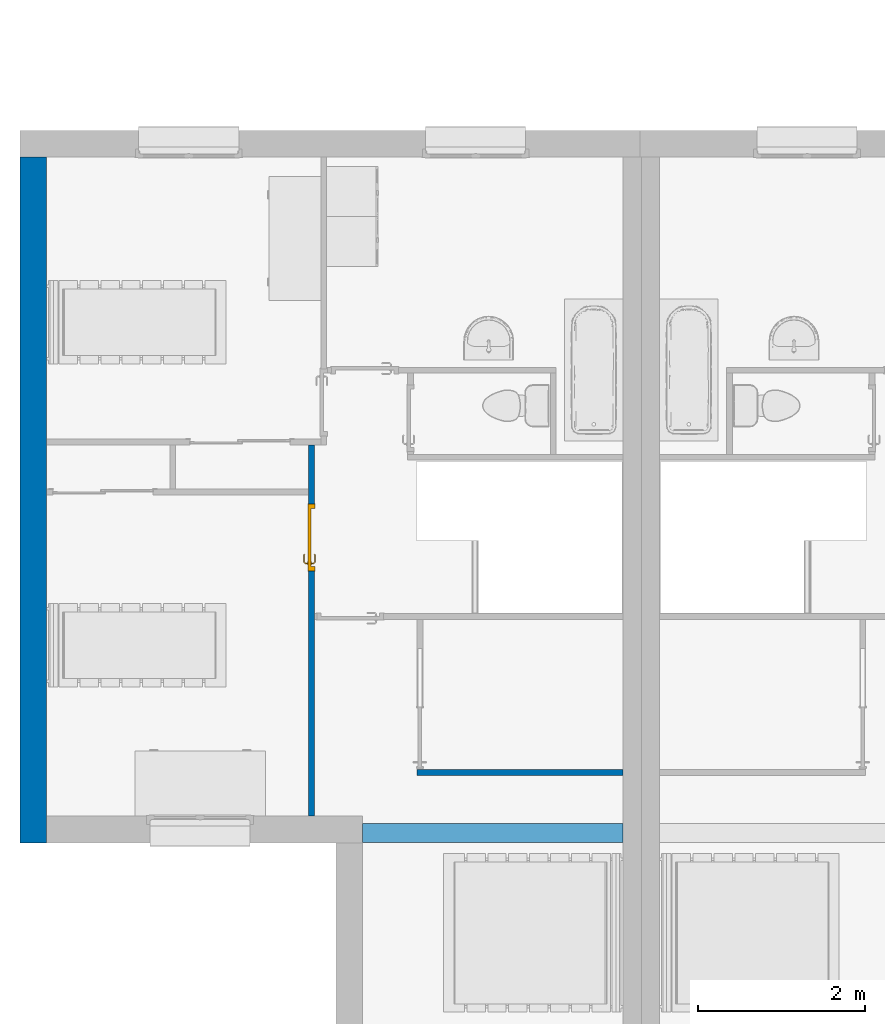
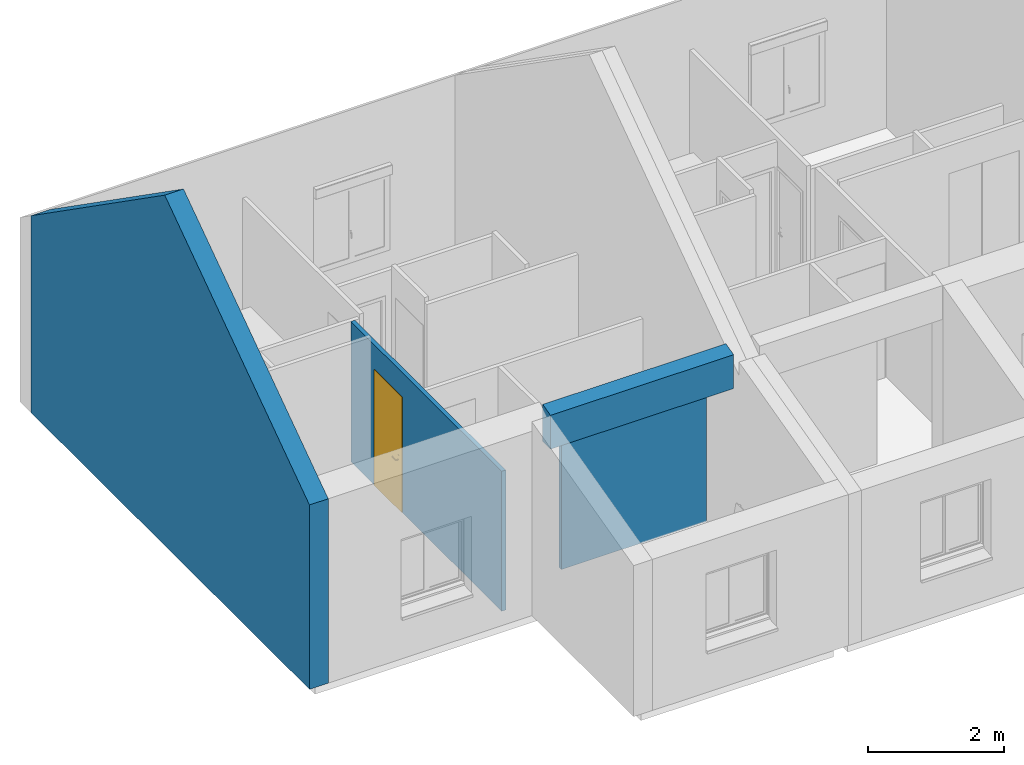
# One storey, part 10 of 50: 4 walls, 1 door, 1 opening.
"""IFC2X3 building model written with IfcOpenShell, lengths in metres."""

from ifc_helpers import new_model, entity, si_unit, converted_unit, derived_unit, direction, frame, frame_2d, origin, place, context, subcontext, project, spatial, polyline, rectangle, extrude, clip, bounded_halfspace, faceted_brep, source, transform, mapped, material, material_list, layer, layer_set, layer_usage, type_object, type_shapes, element, fill, save


model = new_model("IFC2X3")

# Units and contexts
model_context = context("Model", 3, precision=1e-05, world=origin(), true_north=direction((6.12303176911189e-17, 1.0)))
context_of_model = context(None, 3, precision=1e-05, world=origin(), true_north=direction((6.12303176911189e-17, 1.0)))
body_context = subcontext(model_context, "Body", "Model", "MODEL_VIEW")
ifc_project = project(units=[si_unit("LENGTHUNIT", "METRE"), si_unit("AREAUNIT", "SQUARE_METRE"), si_unit("VOLUMEUNIT", "CUBIC_METRE"), converted_unit("PLANEANGLEUNIT", "DEGREE", entity("IfcRatioMeasure", 0.0174532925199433), si_unit("PLANEANGLEUNIT", "RADIAN"), dimensions=[0, 0, 0, 0, 0, 0, 0]), si_unit("MASSUNIT", "GRAM", prefix="KILO"), si_unit("TIMEUNIT", "SECOND"), si_unit("FREQUENCYUNIT", "HERTZ"), si_unit("THERMODYNAMICTEMPERATUREUNIT", "DEGREE_CELSIUS"), derived_unit("THERMALTRANSMITTANCEUNIT", [(si_unit("MASSUNIT", "GRAM", prefix="KILO"), 1), (si_unit("THERMODYNAMICTEMPERATUREUNIT", "KELVIN"), -1), (si_unit("TIMEUNIT", "SECOND"), -3)]), derived_unit("VOLUMETRICFLOWRATEUNIT", [(si_unit("LENGTHUNIT", "METRE"), 3), (si_unit("TIMEUNIT", "SECOND"), -1)]), si_unit("ELECTRICCURRENTUNIT", "AMPERE"), si_unit("ELECTRICVOLTAGEUNIT", "VOLT"), si_unit("POWERUNIT", "WATT"), si_unit("FORCEUNIT", "NEWTON", prefix="KILO"), si_unit("ILLUMINANCEUNIT", "LUX"), si_unit("LUMINOUSFLUXUNIT", "LUMEN"), si_unit("LUMINOUSINTENSITYUNIT", "CANDELA"), si_unit("PRESSUREUNIT", "PASCAL")], contexts=[model_context, context_of_model])

# Site, building, storey
site_placement = place(None, origin())
site = spatial("IfcSite", under=ifc_project, at=site_placement, Name="Surface", CompositionType="ELEMENT")
building_placement = place(site_placement, origin())
building = spatial("IfcBuilding", under=site, at=building_placement, CompositionType="ELEMENT")
storey_placement = place(building_placement, frame((0.0, 0.0, 2.82)))
storey = spatial("IfcBuildingStorey", under=building, at=storey_placement, Name="ETAGE", CompositionType="ELEMENT", Elevation=2.82)

# Wall
ifc_material_1 = material(Name="Enduit blanc cassé2")
ifc_layer_1 = layer(ifc_material_1, 0.02)
ifc_material_2 = material(Name="Parpaing")
ifc_layer_2 = layer(ifc_material_2, 0.2)
ifc_material_3 = material(Name="Isolant")
ifc_layer_3 = layer(ifc_material_3, 0.1)
ifc_layer_set_1 = layer_set([ifc_layer_1, ifc_layer_2, ifc_layer_3], Name="Mur de base:Ext. Parpaing 20 + Isolant 10 enduit blanc cassé")
ifc_layer_usage_1 = layer_usage(ifc_layer_set_1, "AXIS2", "POSITIVE", -0.16)
wall_type_1 = type_object("IfcWallType", Name="Mur de base:Ext. Parpaing 20 + Isolant 10 enduit blanc cassé", PredefinedType="STANDARD", material=ifc_layer_set_1)
wall_1_placement = place(storey_placement, frame((61.5463634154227, 88.1077566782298, 0.0), z_axis=(0.0, 0.0, 1.0), x_axis=(0.0, -1.0, 0.0)))
element("IfcWallStandardCase", 1, at=wall_1_placement, inside=storey, type_object=wall_type_1, material=ifc_layer_usage_1, Name="Mur de base:Ext. Parpaing 20 + Isolant 10 enduit blanc cassé", ObjectType="Mur de base:Ext. Parpaing 20 + Isolant 10 enduit blanc cassé", context=body_context, shape_type="Clipping", body=[
    clip(clip(extrude(rectangle(XDim=8.22, YDim=0.319999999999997, at=frame_2d((4.11, 2.692290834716e-15), x_axis=(-1.0, 0.0))), origin(), (0.0, 0.0, 1.0), 6.30988618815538), bounded_halfspace(frame((0.0, -0.16, 3.5440664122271), z_axis=(-0.573576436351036, 0.0, 0.819152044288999), x_axis=(0.0, -1.0, 0.0)), False, frame((0.0, -0.16, 3.5440664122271)), polyline([(0.0, 0.0), (3.95, 0.0), (3.95, 0.319999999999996), (0.0, 0.319999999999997), (0.0, 0.0)]))), bounded_halfspace(frame((3.95, -0.16, 6.30988618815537), z_axis=(0.573576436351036, 0.0, 0.819152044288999), x_axis=(0.0, 1.0, 0.0)), False, frame((3.95, -0.16, 6.30988618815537)), polyline([(0.0, 0.0), (4.27, 0.0), (4.26999999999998, 0.320000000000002), (3.94999999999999, 0.319999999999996), (0.0, 0.319999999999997), (0.0, 0.0)]))),
])

# Wall, opening, door
ifc_material_4 = material(Name="Peinture - Blanc")
ifc_layer_4 = layer(ifc_material_4, 0.07)
ifc_layer_set_2 = layer_set([ifc_layer_4], Name="Mur de base:Int.  Platre 70 mm en blanc")
ifc_layer_usage_2 = layer_usage(ifc_layer_set_2, "AXIS2", "POSITIVE", -0.035)
wall_type_2 = type_object("IfcWallType", Name="Mur de base:Int.  Platre 70 mm en blanc", PredefinedType="STANDARD", material=ifc_layer_set_2)
wall_2_placement = place(storey_placement, frame((64.8796263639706, 80.2077566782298, 0.0), z_axis=(0.0, 0.0, 1.0), x_axis=(0.0, 1.0, 0.0)))
wall_2 = element("IfcWallStandardCase", 2, at=wall_2_placement, inside=storey, type_object=wall_type_2, material=ifc_layer_usage_2, Name="Mur de base:Int.  Platre 70 mm en blanc", ObjectType="Mur de base:Int.  Platre 70 mm en blanc", context=body_context, shape_type="SweptSolid", body=[
    extrude(rectangle(XDim=4.44999999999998, YDim=0.0700000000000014, at=frame_2d((2.22499999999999, -1.65492619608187e-15), x_axis=(-1.0, 0.0))), origin(), (0.0, 0.0, 1.0), 2.52),
])
opening_placement = place(wall_2_placement, frame((2.94000000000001, -0.0350000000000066, 0.0)))
opening = element("IfcOpeningElement", 3, at=opening_placement, cuts=wall_2, Name="FR_Simple (R):73 x 204 - (70):1", ObjectType="Opening", context=body_context, shape_type="SweptSolid", body=[
    extrude(rectangle(XDim=2.075, YDim=0.799999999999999, at=frame_2d((1.0375, 0.4), x_axis=(1.0, 0.0))), frame((0.0, 0.0, 0.0), z_axis=(0.0, 1.0, 0.0), x_axis=(0.0, 0.0, 1.0)), (0.0, 0.0, 1.0), 0.07),
])
ifc_material_5 = material(Name="Poignée Porte")
ifc_material_6 = material(Name="Dormants Portes")
ifc_material_7 = material(Name="Panneaux Portes")
ifc_material_list_1 = material_list([ifc_material_5, ifc_material_6, ifc_material_7])
ifc_material_list_2 = material_list([ifc_material_5, ifc_material_6, ifc_material_7])
door_style = type_object("IfcDoorStyle", Name="73 x 204 - (70)", ConstructionType="NOTDEFINED", OperationType="SINGLE_SWING_RIGHT", ParameterTakesPrecedence=False, Sizeable=False, material=ifc_material_list_2)
shared_shape = source(origin(), body_context, "Body", "Brep", [
    faceted_brep([(0.710000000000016, -0.0130000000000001, 0.764641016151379), (0.720352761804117, -0.0130000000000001, 0.766003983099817), (0.730000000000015, -0.0130000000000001, 0.770000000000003), (0.730000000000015, -0.0130000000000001, 0.980000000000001), (0.720352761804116, -0.0130000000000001, 0.983996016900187), (0.710000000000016, -0.0130000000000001, 0.985358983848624), (0.699647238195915, -0.0130000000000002, 0.983996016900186), (0.690000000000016, -0.0130000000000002, 0.980000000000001), (0.690000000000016, -0.0130000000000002, 0.770000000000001), (0.699647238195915, -0.0130000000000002, 0.766003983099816), (0.730000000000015, -0.00800000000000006, 0.980000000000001), (0.730000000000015, -0.00800000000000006, 0.770000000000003), (0.720352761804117, -0.00800000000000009, 0.766003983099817), (0.710000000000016, -0.00800000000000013, 0.764641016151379), (0.699647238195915, -0.00800000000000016, 0.766003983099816), (0.690000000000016, -0.00800000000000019, 0.770000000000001), (0.690000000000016, -0.00800000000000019, 0.980000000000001), (0.699647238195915, -0.00800000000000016, 0.983996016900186), (0.710000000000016, -0.00800000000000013, 0.985358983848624), (0.720352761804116, -0.00800000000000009, 0.983996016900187)], [[[0, 1, 2, 3, 4, 5, 6, 7, 8, 9]], [[10, 11, 12, 13, 14, 15, 16, 17, 18, 19]], [[1, 12, 11, 2]], [[0, 13, 12, 1]], [[9, 14, 13, 0]], [[9, 8, 15, 14]], [[15, 8, 7, 16]], [[6, 17, 16, 7]], [[5, 18, 17, 6]], [[4, 19, 18, 5]], [[4, 3, 10, 19]], [[10, 3, 2, 11]]]),
    faceted_brep([(0.730000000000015, 0.0319999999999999, 0.770000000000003), (0.730000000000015, 0.0319999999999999, 0.980000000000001), (0.720352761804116, 0.0319999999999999, 0.983996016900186), (0.710000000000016, 0.0319999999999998, 0.985358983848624), (0.699647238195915, 0.0319999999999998, 0.983996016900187), (0.690000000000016, 0.0319999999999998, 0.980000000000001), (0.690000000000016, 0.0319999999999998, 0.770000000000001), (0.699647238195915, 0.0319999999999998, 0.766003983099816), (0.710000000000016, 0.0319999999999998, 0.764641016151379), (0.720352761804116, 0.0319999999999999, 0.766003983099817), (0.710000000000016, 0.0369999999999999, 0.985358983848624), (0.720352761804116, 0.0369999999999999, 0.983996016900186), (0.730000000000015, 0.0369999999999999, 0.980000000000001), (0.730000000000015, 0.0369999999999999, 0.770000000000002), (0.720352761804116, 0.0369999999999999, 0.766003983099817), (0.710000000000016, 0.0369999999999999, 0.764641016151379), (0.699647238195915, 0.0369999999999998, 0.766003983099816), (0.690000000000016, 0.0369999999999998, 0.770000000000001), (0.690000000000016, 0.0369999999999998, 0.980000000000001), (0.699647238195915, 0.0369999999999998, 0.983996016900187)], [[[0, 1, 2, 3, 4, 5, 6, 7, 8, 9]], [[10, 11, 12, 13, 14, 15, 16, 17, 18, 19]], [[4, 19, 18, 5]], [[3, 10, 19, 4]], [[2, 11, 10, 3]], [[2, 1, 12, 11]], [[12, 1, 0, 13]], [[9, 14, 13, 0]], [[8, 15, 14, 9]], [[7, 16, 15, 8]], [[7, 6, 17, 16]], [[17, 6, 5, 18]]]),
    faceted_brep([(0.707974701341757, -0.0130000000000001, 0.907780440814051), (0.712025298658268, -0.0130000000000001, 0.907780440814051), (0.716000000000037, -0.0130000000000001, 0.906999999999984), (0.716000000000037, -0.0130000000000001, 0.892999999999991), (0.712025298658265, -0.0130000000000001, 0.892219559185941), (0.707974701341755, -0.0130000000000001, 0.89221955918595), (0.703999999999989, -0.0130000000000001, 0.893000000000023), (0.703999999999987, -0.0130000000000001, 0.90699999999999), (0.712025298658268, -0.0390045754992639, 0.907780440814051), (0.716000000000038, -0.0406509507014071, 0.906999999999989), (0.707974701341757, -0.0373267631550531, 0.907780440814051), (0.694298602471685, -0.0510028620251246, 0.907780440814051), (0.695976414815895, -0.0550534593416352, 0.907780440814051), (0.609142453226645, -0.0550534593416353, 0.90778044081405), (0.610820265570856, -0.0510028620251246, 0.90778044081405), (0.604342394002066, -0.0445249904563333, 0.90778044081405), (0.601478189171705, -0.0473891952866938, 0.90778044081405), (0.703999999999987, -0.0356803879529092, 0.90699999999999), (0.703999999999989, -0.0356803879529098, 0.893000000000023), (0.707974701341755, -0.0373267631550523, 0.89221955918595), (0.712025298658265, -0.0390045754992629, 0.89221955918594), (0.695976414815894, -0.0550534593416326, 0.89221955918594), (0.694298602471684, -0.0510028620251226, 0.89221955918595), (0.610820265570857, -0.0510028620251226, 0.89221955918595), (0.609142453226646, -0.0550534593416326, 0.89221955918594), (0.601478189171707, -0.0473891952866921, 0.89221955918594), (0.604342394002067, -0.044524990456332, 0.89221955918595), (0.716000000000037, -0.0406509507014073, 0.892999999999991), (0.69762279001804, -0.059028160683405, 0.906999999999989), (0.692652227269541, -0.0470281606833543, 0.90699999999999), (0.692652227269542, -0.0470281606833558, 0.893000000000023), (0.697622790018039, -0.0590281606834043, 0.892999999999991), (0.65255943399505, -0.053182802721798, 0.907878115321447), (0.657692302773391, -0.0590281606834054, 0.906999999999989), (0.607496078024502, -0.0590281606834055, 0.906999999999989), (0.652559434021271, -0.0470281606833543, 0.90699999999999), (0.612466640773, -0.0470281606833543, 0.906999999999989), (0.652559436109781, -0.0470281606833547, 0.893000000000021), (0.612466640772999, -0.0470281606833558, 0.893000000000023), (0.652559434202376, -0.0531828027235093, 0.892121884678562), (0.647426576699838, -0.0590281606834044, 0.892999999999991), (0.607496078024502, -0.0590281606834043, 0.892999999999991), (0.607152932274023, -0.0417144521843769, 0.89300000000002), (0.598667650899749, -0.0501997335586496, 0.892999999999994), (0.598667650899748, -0.0501997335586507, 0.906999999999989), (0.607152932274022, -0.0417144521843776, 0.906999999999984)], [[[0, 1, 2, 3, 4, 5, 6, 7]], [[2, 1, 8, 9]], [[1, 0, 10, 11, 12, 8]], [[13, 14, 15, 16]], [[0, 7, 17, 10]], [[18, 17, 7, 6]], [[5, 19, 18, 6]], [[5, 4, 20, 21, 22, 19]], [[23, 24, 25, 26]], [[3, 27, 20, 4]], [[9, 27, 3, 2]], [[9, 8, 12, 28]], [[10, 17, 29, 11]], [[30, 29, 17, 18]], [[18, 19, 22, 30]], [[20, 27, 31, 21]], [[28, 31, 27, 9]], [[12, 32, 33]], [[13, 33, 32]], [[33, 28, 12]], [[33, 13, 34]], [[11, 35, 32]], [[32, 12, 11]], [[32, 35, 14]], [[35, 11, 29]], [[36, 14, 35]], [[13, 32, 14]], [[30, 37, 38, 36, 35, 29]], [[39, 37, 22]], [[40, 41, 24]], [[40, 21, 31]], [[39, 21, 40]], [[23, 37, 39]], [[39, 24, 23]], [[30, 22, 37]], [[37, 23, 38]], [[21, 39, 22]], [[24, 39, 40]], [[31, 28, 33, 34, 41, 40]], [[42, 26, 25, 43, 44, 16, 15, 45]], [[13, 16, 44, 34]], [[36, 45, 15, 14]], [[42, 45, 36, 38]], [[38, 23, 26, 42]], [[24, 41, 43, 25]], [[44, 43, 41, 34]]]),
    faceted_brep([(0.712025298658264, 0.0369999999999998, 0.907780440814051), (0.707974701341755, 0.0369999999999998, 0.907780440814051), (0.703999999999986, 0.0369999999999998, 0.90699999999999), (0.703999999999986, 0.0369999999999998, 0.89300000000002), (0.707974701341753, 0.0369999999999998, 0.892219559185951), (0.712025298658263, 0.0369999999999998, 0.892219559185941), (0.716000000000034, 0.0369999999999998, 0.892999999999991), (0.716000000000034, 0.0369999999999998, 0.90699999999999), (0.703999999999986, 0.0594852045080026, 0.90699999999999), (0.703999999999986, 0.0594852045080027, 0.89300000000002), (0.707974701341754, 0.0611315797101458, 0.907780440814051), (0.712025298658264, 0.0628093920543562, 0.907780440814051), (0.695838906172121, 0.0789957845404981, 0.907780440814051), (0.69416109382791, 0.0749451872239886, 0.907780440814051), (0.610793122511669, 0.0749451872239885, 0.907780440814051), (0.609115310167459, 0.0789957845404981, 0.907780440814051), (0.601451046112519, 0.071331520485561, 0.907780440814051), (0.604315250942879, 0.0684673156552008, 0.907780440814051), (0.716000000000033, 0.0644557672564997, 0.90699999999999), (0.716000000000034, 0.0644557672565, 0.892999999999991), (0.712025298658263, 0.0628093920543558, 0.892219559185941), (0.707974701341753, 0.0611315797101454, 0.892219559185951), (0.69416109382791, 0.0749451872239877, 0.892219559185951), (0.69583890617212, 0.0789957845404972, 0.892219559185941), (0.609115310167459, 0.0789957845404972, 0.89221955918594), (0.610793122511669, 0.0749451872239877, 0.89221955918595), (0.60431525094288, 0.0684673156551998, 0.89221955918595), (0.60145104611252, 0.07133152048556, 0.89221955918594), (0.692514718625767, 0.07097048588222, 0.89300000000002), (0.692514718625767, 0.0709704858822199, 0.90699999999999), (0.697485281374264, 0.0829704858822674, 0.90699999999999), (0.697485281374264, 0.082970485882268, 0.892999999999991), (0.652477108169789, 0.0709704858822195, 0.90699999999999), (0.612439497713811, 0.0709704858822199, 0.90699999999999), (0.612439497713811, 0.0709704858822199, 0.89300000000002), (0.652477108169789, 0.0709704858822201, 0.89300000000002), (0.652477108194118, 0.0771249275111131, 0.907878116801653), (0.647399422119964, 0.0829704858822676, 0.90699999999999), (0.607468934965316, 0.0829704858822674, 0.90699999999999), (0.657554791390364, 0.0829704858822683, 0.892999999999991), (0.607468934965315, 0.082970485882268, 0.892999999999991), (0.65247710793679, 0.0771249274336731, 0.892121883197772), (0.598640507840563, 0.0741420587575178, 0.90699999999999), (0.598640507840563, 0.074142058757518, 0.892999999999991), (0.607125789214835, 0.0656567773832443, 0.89300000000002), (0.607125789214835, 0.0656567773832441, 0.90699999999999)], [[[0, 1, 2, 3, 4, 5, 6, 7]], [[8, 9, 3, 2]], [[1, 10, 8, 2]], [[1, 0, 11, 12, 13, 10]], [[14, 15, 16, 17]], [[7, 18, 11, 0]], [[18, 7, 6, 19]], [[6, 5, 20, 19]], [[5, 4, 21, 22, 23, 20]], [[24, 25, 26, 27]], [[4, 3, 9, 21]], [[28, 9, 8, 29]], [[8, 10, 13, 29]], [[18, 30, 12, 11]], [[31, 30, 18, 19]], [[19, 20, 23, 31]], [[21, 9, 28, 22]], [[28, 29, 32, 33, 34, 35]], [[36, 32, 13]], [[37, 38, 15]], [[37, 12, 30]], [[36, 12, 37]], [[14, 32, 36]], [[36, 15, 14]], [[29, 13, 32]], [[32, 14, 33]], [[12, 36, 13]], [[15, 36, 37]], [[30, 31, 39, 40, 38, 37]], [[23, 41, 39]], [[24, 39, 41]], [[39, 31, 23]], [[39, 24, 40]], [[22, 35, 41]], [[41, 23, 22]], [[41, 35, 25]], [[35, 22, 28]], [[34, 25, 35]], [[24, 41, 25]], [[17, 16, 42, 43, 27, 26, 44, 45]], [[44, 34, 33, 45]], [[33, 14, 17, 45]], [[15, 38, 42, 16]], [[42, 38, 40, 43]], [[24, 27, 43, 40]], [[34, 44, 26, 25]]]),
    faceted_brep([(0.800000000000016, 0.0, 0.0), (0.810000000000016, 0.0, 0.0), (0.810000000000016, -0.00799999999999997, 0.0), (0.765000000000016, -0.00799999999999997, 0.0), (0.765000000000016, 0.032, 0.0), (0.750000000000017, 0.032, 0.0), (0.750000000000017, 0.0780000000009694, 0.0), (0.810000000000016, 0.0780000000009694, 0.0), (0.810000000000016, 0.0700000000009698, 0.0), (0.800000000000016, 0.0700000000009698, 0.0), (0.800000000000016, 0.0700000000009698, 2.075), (0.800000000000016, 0.0, 2.075), (0.810000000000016, 0.0700000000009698, 2.085), (-0.00999999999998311, 0.0700000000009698, 2.085), (-0.00999999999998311, 0.0700000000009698, 0.0), (0.0, 0.0700000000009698, 0.0), (0.0, 0.0700000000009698, 2.075), (0.810000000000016, 0.0780000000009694, 2.085), (0.750000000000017, 0.0780000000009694, 2.025), (0.0500000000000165, 0.0780000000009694, 2.025), (0.0500000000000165, 0.0780000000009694, 0.0), (-0.00999999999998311, 0.0780000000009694, 0.0), (-0.00999999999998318, 0.0780000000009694, 2.085), (0.750000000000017, 0.032, 2.025), (0.765000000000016, 0.032, 2.04), (0.0350000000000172, 0.032, 2.04), (0.0350000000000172, 0.032, 0.0), (0.0500000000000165, 0.032, 0.0), (0.0500000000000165, 0.032, 2.025), (0.765000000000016, -0.00799999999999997, 2.04), (0.810000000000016, -0.00799999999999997, 2.085), (-0.00999999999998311, -0.00799999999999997, 2.085), (-0.00999999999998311, -0.00799999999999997, 0.0), (0.0350000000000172, -0.00799999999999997, 0.0), (0.0350000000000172, -0.00799999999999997, 2.04), (0.810000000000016, 0.0, 2.085), (0.0, 0.0, 2.075), (0.0, 0.0, 0.0), (-0.00999999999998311, 0.0, 0.0), (-0.00999999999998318, 0.0, 2.085)], [[[0, 1, 2, 3, 4, 5, 6, 7, 8, 9]], [[9, 10, 11, 0]], [[8, 12, 13, 14, 15, 16, 10, 9]], [[7, 17, 12, 8]], [[6, 18, 19, 20, 21, 22, 17, 7]], [[5, 23, 18, 6]], [[4, 24, 25, 26, 27, 28, 23, 5]], [[3, 29, 24, 4]], [[2, 30, 31, 32, 33, 34, 29, 3]], [[1, 35, 30, 2]], [[0, 11, 36, 37, 38, 39, 35, 1]], [[10, 16, 36, 11]], [[17, 22, 13, 12]], [[23, 28, 19, 18]], [[29, 34, 25, 24]], [[35, 39, 31, 30]], [[37, 15, 14, 21, 20, 27, 26, 33, 32, 38]], [[16, 15, 37, 36]], [[22, 21, 14, 13]], [[28, 27, 20, 19]], [[34, 33, 26, 25]], [[39, 38, 32, 31]]]),
    faceted_brep([(0.765000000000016, -0.00799999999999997, 2.04), (0.0350000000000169, -0.00799999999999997, 2.04), (0.0350000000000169, -0.00799999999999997, 0.0), (0.765000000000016, -0.00799999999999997, 0.0), (0.765000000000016, 0.032, 2.04), (0.765000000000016, 0.032, 0.0), (0.0350000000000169, 0.032, 0.0), (0.0350000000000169, 0.032, 2.04)], [[[0, 1, 2, 3]], [[4, 5, 6, 7]], [[3, 5, 4, 0]], [[2, 6, 5, 3]], [[1, 7, 6, 2]], [[0, 4, 7, 1]]]),
])
type_shapes(door_style, [shared_shape])
door_placement = place(opening_placement, frame((0.800000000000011, 0.0700000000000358, 0.0), z_axis=(0.0, 0.0, 1.0), x_axis=(-1.0, 0.0, 0.0)))
door = element("IfcDoor", 4, at=door_placement, inside=storey, type_object=door_style, material=ifc_material_list_1, Name="FR_Simple (R):73 x 204 - (70)", ObjectType="73 x 204 - (70)", OverallHeight=2.075, OverallWidth=0.800000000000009, context=body_context, shape_type="MappedRepresentation", body=[
    mapped(shared_shape, transform((0.0, 0.0, 0.0), scale=1.0)),
])
fill(opening, door)

# Walls
ifc_layer_usage_3 = layer_usage(ifc_layer_set_2, "AXIS2", "POSITIVE", -0.035)
wall_3_placement = place(storey_placement, frame((66.1446263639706, 80.7327566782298, 0.0)))
element("IfcWallStandardCase", 5, at=wall_3_placement, inside=storey, type_object=wall_type_2, material=ifc_layer_usage_3, Name="Mur de base:Int.  Platre 70 mm en blanc", ObjectType="Mur de base:Int.  Platre 70 mm en blanc", context=body_context, shape_type="SweptSolid", body=[
    extrude(rectangle(XDim=2.47038340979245, YDim=0.0699999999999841, at=frame_2d((1.23519170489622, 5.27355936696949e-16), x_axis=(-1.0, 0.0))), origin(), (0.0, 0.0, 1.0), 2.52),
])
ifc_layer_5 = layer(ifc_material_1, 0.015)
ifc_layer_6 = layer(ifc_material_2, 0.2)
ifc_layer_7 = layer(ifc_material_1, 0.015)
ifc_layer_set_3 = layer_set([ifc_layer_5, ifc_layer_6, ifc_layer_7], Name="Mur de base:Ext. Parpaing 20 + 2 x 1.5")
ifc_layer_usage_4 = layer_usage(ifc_layer_set_3, "AXIS2", "POSITIVE", -0.115)
wall_type_3 = type_object("IfcWallType", Name="Mur de base:Ext. Parpaing 20 + 2 x 1.5", PredefinedType="STANDARD", material=ifc_layer_set_3)
wall_4_placement = place(storey_placement, frame((65.4946263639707, 80.0077566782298, 2.88288676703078)))
element("IfcWallStandardCase", 6, at=wall_4_placement, inside=storey, type_object=wall_type_3, material=ifc_layer_usage_4, Name="Mur de base:Ext. Parpaing 20 + 2 x 1.5", ObjectType="Mur de base:Ext. Parpaing 20 + 2 x 1.5", context=body_context, shape_type="Clipping", body=[
    clip(extrude(rectangle(XDim=3.12038340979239, YDim=0.230000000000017, at=frame_2d((1.56019170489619, -9.71445146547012e-16), x_axis=(-1.0, 0.0))), origin(), (0.0, 0.0, 1.0), 0.668342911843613), bounded_halfspace(frame((0.0, -0.114999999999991, 0.609244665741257), z_axis=(0.0, -0.248864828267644, 0.968538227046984), x_axis=(1.0, 0.0, 0.0)), False, frame((0.0, -0.114999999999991, 0.609244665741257)), polyline([(0.0, 0.0), (3.12038340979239, 0.0), (3.12038340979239, 0.23), (0.0, 0.23), (0.0, 0.0)]))),
])

save(model, "model.ifc")
